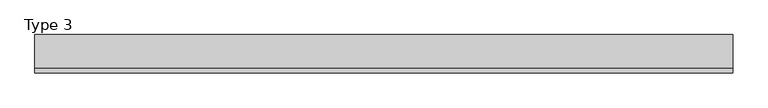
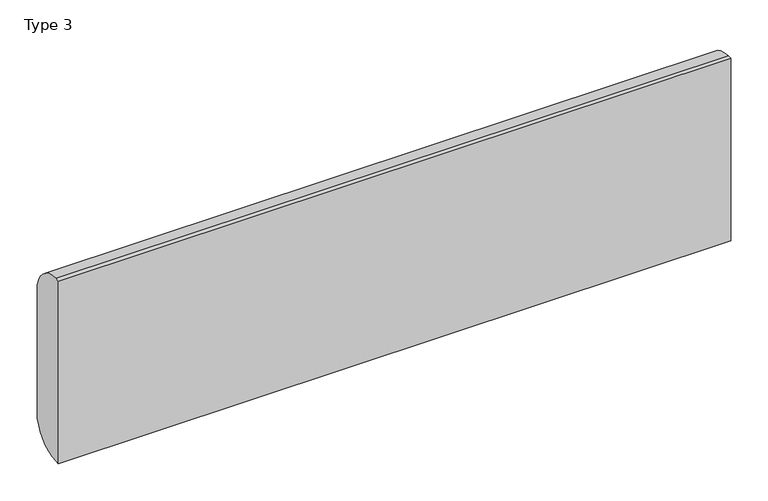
"""IFC4 building model written with IfcOpenShell, lengths in millimetres: proxy geometry, BHMS-Bed_Head_Services-LOD2A-v1.0001 : Type 3."""

from ifc_helpers import new_model, si_unit, point, frame, frame_2d, origin, place, context, project, spatial, polyline, circle_curve, trimmed, segment, composite_curve, outline, extrude, source, transform, mapped, element, save


def type_3_23f395f6(model_context):
    return source(origin(), model_context, "Body", "SweptSolid", [
        extrude(outline(composite_curve([segment(polyline([(87.5, 1100.0), (87.5, 1400.0), (95.0, 1400.0)]), True, "CONTINUOUS"), segment(trimmed(circle_curve(frame_2d((95.0, 1350.0)), 50.0), [point((95.0, 1400.0))], [point((145.0, 1350.0))], False, "CARTESIAN"), True, "CONTINUOUS"), segment(polyline([(145.0, 1350.0), (145.0, 1150.0)]), True, "CONTINUOUS"), segment(trimmed(circle_curve(frame_2d((95.0, 1150.0)), 50.0), [point((145.0, 1150.0))], [point((95.0, 1100.0))], False, "CARTESIAN"), True, "CONTINUOUS"), segment(polyline([(95.0, 1100.0), (87.5, 1100.0)]), True, "CONTINUOUS")], self_intersect=False)), frame((-2731.7129885, 0.0, 0.0), z_axis=(1.0, 0.0, 0.0), x_axis=(0.0, 1.0, 0.0)), (0.0, 0.0, 1.0), 1045.4463083),
    ])


if __name__ == "__main__":
    model = new_model("IFC4")
    model_context = context("Model", 3, world=origin())
    ifc_project = project(units=[si_unit("LENGTHUNIT", "METRE", prefix="MILLI")], contexts=[model_context])
    site = spatial("IfcSite", under=ifc_project)
    building = spatial("IfcBuilding", under=site)
    placement = place(None, origin())
    type_3_shape = type_3_23f395f6(model_context)
    element("IfcBuildingElementProxy", 1, Name="BHMS-Bed_Head_Services-LOD2A-v1.0001 : Type 3", ObjectType="BHMS-Bed_Head_Services-LOD2A-v1.0001 : Type 3", at=placement, inside=building, context=model_context, shape_type="MappedRepresentation", body=[
        mapped(type_3_shape, transform((0.0, 0.0, 0.0), x_axis=(1.0, 0.0, 0.0), y_axis=(0.0, 1.0, 0.0), z_axis=(0.0, 0.0, 1.0))),
    ])
    save(model, "model.ifc")
